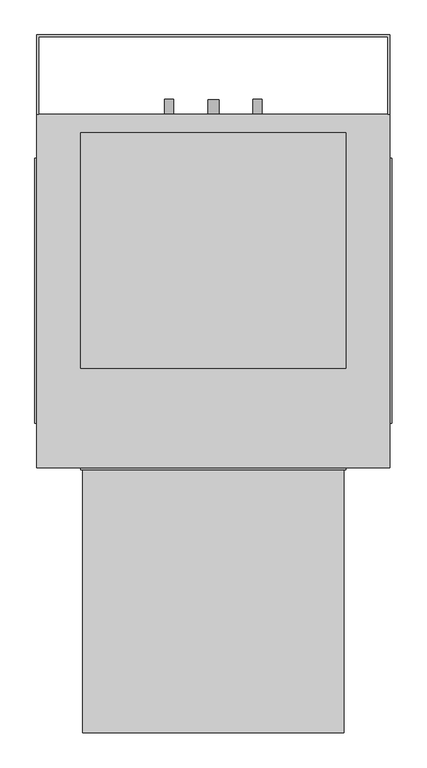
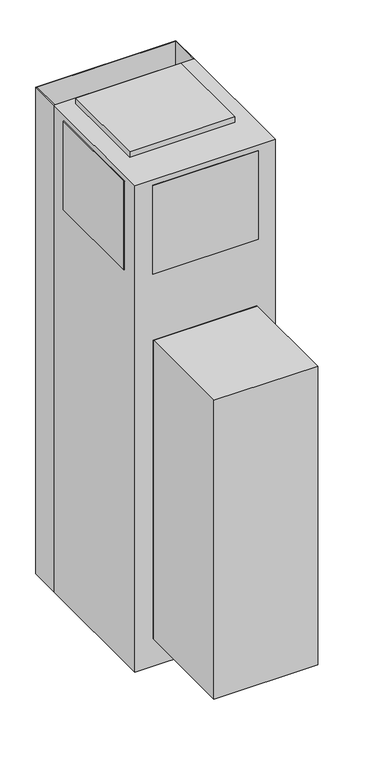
"""IFC4 building model written with IfcOpenShell, lengths in millimetres: proxy geometry, Exposed_Modular_Fan_Coil_Unit_-_42SHA_-_CARRIER_-_2-Pipe_Cool-EHeat_-_NoRisers_2022 : Size 10 - 277v/60Hz/1Ph - 4 Row 8.0kW."""

from ifc_helpers import new_model, si_unit, point, frame, frame_2d, origin, origin_with_axes, place, context, project, spatial, polyline, circle_curve, trimmed, segment, composite_curve, outline, extrude, source, transform, mapped, element, save


def mechanical_equipment_a232e287(model_context):
    return source(origin(), model_context, "Body", "SweptSolid", [
        extrude(outline(polyline([(682.625, -368.3), (682.625, -822.325), (231.775, -822.325), (231.775, -368.3), (682.625, -368.3)])), frame((0.0, 0.0, 127.0), z_axis=(0.0, 0.0, 1.0), x_axis=(1.0, 0.0, 0.0)), (0.0, 0.0, 1.0), 1371.6),
        extrude(outline(polyline([(152.4, 381.0), (762.0, 381.0), (762.0, 244.475), (758.825, 244.475), (758.825, 377.825), (155.575, 377.825), (155.575, 244.475), (152.4, 244.475), (152.4, 381.0)])), origin_with_axes(), (0.0, 0.0, 1.0), 2235.2),
        extrude(outline(composite_curve([segment(trimmed(circle_curve(frame_2d((990.6, 533.4)), 7.9375), [point((990.6, 541.3375))], [point((990.6, 525.4625))], False, "CARTESIAN"), True, "CONTINUOUS"), segment(trimmed(circle_curve(frame_2d((990.6, 533.4)), 7.9375), [point((990.6, 525.4625))], [point((990.6, 541.3375))], False, "CARTESIAN"), True, "CONTINUOUS")], self_intersect=False)), frame((0.0, 244.475, 0.0), z_axis=(0.0, 1.0, 0.0), x_axis=(0.0, 0.0, 1.0)), (0.0, 0.0, 1.0), 25.4),
        extrude(outline(composite_curve([segment(trimmed(circle_curve(frame_2d((990.6, 381.0)), 7.9375), [point((990.6, 388.9375))], [point((990.6, 373.0625))], False, "CARTESIAN"), True, "CONTINUOUS"), segment(trimmed(circle_curve(frame_2d((990.6, 381.0)), 7.9375), [point((990.6, 373.0625))], [point((990.6, 388.9375))], False, "CARTESIAN"), True, "CONTINUOUS")], self_intersect=False)), frame((0.0, 244.475, 0.0), z_axis=(0.0, 1.0, 0.0), x_axis=(0.0, 0.0, 1.0)), (0.0, 0.0, 1.0), 25.4),
        extrude(outline(composite_curve([segment(trimmed(circle_curve(frame_2d((127.0, 457.2)), 9.525), [point((127.0, 466.725))], [point((127.0, 447.675))], False, "CARTESIAN"), True, "CONTINUOUS"), segment(trimmed(circle_curve(frame_2d((127.0, 457.2)), 9.525), [point((127.0, 447.675))], [point((127.0, 466.725))], False, "CARTESIAN"), True, "CONTINUOUS")], self_intersect=False)), frame((0.0, 244.475, 0.0), z_axis=(0.0, 1.0, 0.0), x_axis=(0.0, 0.0, 1.0)), (0.0, 0.0, 1.0), 25.4),
        extrude(outline(polyline([(682.625, -368.3), (231.775, -368.3), (231.775, -365.125), (682.625, -365.125), (682.625, -368.3)])), frame((0.0, 0.0, 127.0), z_axis=(0.0, 0.0, 1.0), x_axis=(1.0, 0.0, 0.0)), (0.0, 0.0, 1.0), 1371.6),
        extrude(outline(polyline([(765.175, 168.275), (765.175, -288.925), (762.0, -288.925), (762.0, 168.275), (765.175, 168.275)])), frame((0.0, 0.0, 1803.4), z_axis=(0.0, 0.0, 1.0), x_axis=(1.0, 0.0, 0.0)), (0.0, 0.0, 1.0), 406.4),
        extrude(outline(polyline([(149.225, -288.925), (149.225, 168.275), (152.4, 168.275), (152.4, -288.925), (149.225, -288.925)])), frame((0.0, 0.0, 1803.4), z_axis=(0.0, 0.0, 1.0), x_axis=(1.0, 0.0, 0.0)), (0.0, 0.0, 1.0), 406.4),
        extrude(outline(polyline([(685.8, -368.3), (228.6, -368.3), (228.6, -365.125), (685.8, -365.125), (685.8, -368.3)])), frame((0.0, 0.0, 1803.4), z_axis=(0.0, 0.0, 1.0), x_axis=(1.0, 0.0, 0.0)), (0.0, 0.0, 1.0), 406.4),
        extrude(outline(polyline([(685.8, 212.725), (685.8, -193.675), (228.6, -193.675), (228.6, 212.725), (685.8, 212.725)])), frame((0.0, 0.0, 2235.2), z_axis=(0.0, 0.0, 1.0), x_axis=(1.0, 0.0, 0.0)), (0.0, 0.0, 1.0), 25.4),
        extrude(outline(polyline([(762.0, 244.475), (762.0, -365.125), (152.4, -365.125), (152.4, 244.475), (762.0, 244.475)])), origin_with_axes(), (0.0, 0.0, 1.0), 2235.2),
    ])


if __name__ == "__main__":
    model = new_model("IFC4")
    model_context = context("Model", 3, world=origin())
    ifc_project = project(units=[si_unit("LENGTHUNIT", "METRE", prefix="MILLI")], contexts=[model_context])
    site = spatial("IfcSite", under=ifc_project)
    building = spatial("IfcBuilding", under=site)
    placement = place(None, origin())
    mechanical_equipment_shape = mechanical_equipment_a232e287(model_context)
    element("IfcBuildingElementProxy", 1, Name="Exposed_Modular_Fan_Coil_Unit_-_42SHA_-_CARRIER_-_2-Pipe_Cool-EHeat_-_NoRisers_2022 : Size 10 - 277v/60Hz/1Ph - 4 Row 8.0kW", ObjectType="Exposed_Modular_Fan_Coil_Unit_-_42SHA_-_CARRIER_-_2-Pipe_Cool-EHeat_-_NoRisers_2022 : Size 10 - 277v/60Hz/1Ph - 4 Row 8.0kW", at=placement, inside=building, context=model_context, shape_type="MappedRepresentation", body=[
        mapped(mechanical_equipment_shape, transform((0.0, 0.0, 0.0), x_axis=(1.0, 0.0, 0.0), y_axis=(0.0, 1.0, 0.0), z_axis=(0.0, 0.0, 1.0))),
    ])
    save(model, "model.ifc")
